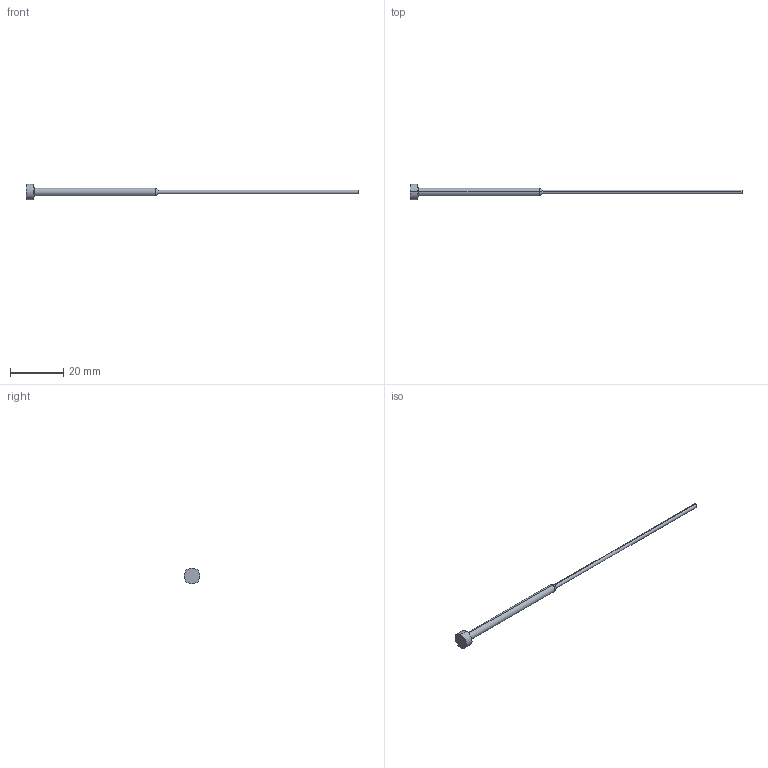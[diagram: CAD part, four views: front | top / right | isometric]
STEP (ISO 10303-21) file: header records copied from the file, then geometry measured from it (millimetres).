
FILE_DESCRIPTION(('CATIA V5 STEP Exchange'),'2;1');
FILE_NAME('C:\Users\Utente\Desktop\IO LAVORO\3D X SITO CF\X SITO\PLASTICA\359\359-1,5X3X125.stp','2021-05-14T18:24:42+00:00',('none'),('none'),'CATIA Version 5 Release 20 GA (IN-10)','CATIA V5 STEP AP203','none');
FILE_SCHEMA(('CONFIG_CONTROL_DESIGN'));
Length unit declared in the file: millimetre
Products named in the file (1): 359-1,5X3X125
Bounding box: 125 x 6 x 6 mm (x, y, z)
Volume: 545.9 mm3; surface area: 901.4 mm2
Topology: 1 solids, 1 shells, 13 faces, 38 edges, 28 vertices
Faces by surface type: cylinder 6, plane 3, cone 2, torus 2
Entity records: 526 total; most frequent: CARTESIAN_POINT 140, ORIENTED_EDGE 76, DIRECTION 58, AXIS2_PLACEMENT_3D 38, EDGE_CURVE 38, VERTEX_POINT 28, CIRCLE 24, EDGE_LOOP 14
